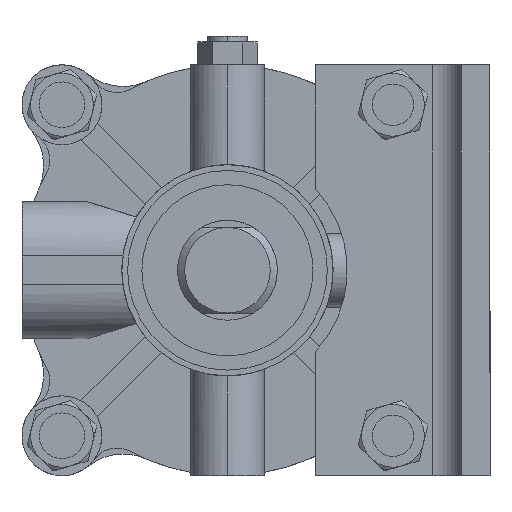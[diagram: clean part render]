
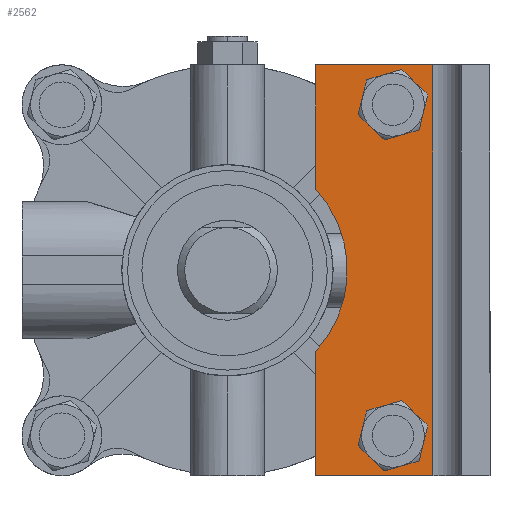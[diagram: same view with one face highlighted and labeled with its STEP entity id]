
A CAD part, left-side view. The second image highlights one B-rep face of the part: STEP entity #2562.
In plain terms, the highlighted planar face has unit normal (-1, 0, 0) as drawn and (0, 0, 1) by its records, which use the part's own axes.
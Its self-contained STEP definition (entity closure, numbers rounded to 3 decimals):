
#315 = EDGE_CURVE ( 'NONE', #4417, #3559, #1992, .T. ) ;
#316 = VECTOR ( 'NONE', #7740, 1000. ) ;
#380 = LINE ( 'NONE', #7096, #316 ) ;
#475 = VERTEX_POINT ( 'NONE', #3511 ) ;
#509 = DIRECTION ( 'NONE',  ( 1., 0., 0. ) ) ;
#563 = VERTEX_POINT ( 'NONE', #8702 ) ;
#690 = VECTOR ( 'NONE', #9825, 1000. ) ;
#783 = EDGE_CURVE ( 'NONE', #8852, #4600, #9579, .T. ) ;
#912 = FACE_BOUND ( 'NONE', #5026, .T. ) ;
#1014 = DIRECTION ( 'NONE',  ( 0., 0., 1. ) ) ;
#1181 = DIRECTION ( 'NONE',  ( 1., 0., 0. ) ) ;
#1301 = DIRECTION ( 'NONE',  ( 0., 0., 1. ) ) ;
#1481 = EDGE_CURVE ( 'NONE', #1653, #563, #9395, .T. ) ;
#1616 = ORIENTED_EDGE ( 'NONE', *, *, #4074, .T. ) ;
#1649 = EDGE_LOOP ( 'NONE', ( #1616, #10362, #4063, #7191, #9123, #4225 ) ) ;
#1653 = VERTEX_POINT ( 'NONE', #8612 ) ;
#1882 = DIRECTION ( 'NONE',  ( 0., 0., 1. ) ) ;
#1938 = EDGE_CURVE ( 'NONE', #8900, #5948, #9467, .T. ) ;
#1992 = CIRCLE ( 'NONE', #7813, 8. ) ;
#2077 = DIRECTION ( 'NONE',  ( 0., -1., 0. ) ) ;
#2086 = AXIS2_PLACEMENT_3D ( 'NONE', #8885, #4375, #1181 ) ;
#2131 = CARTESIAN_POINT ( 'NONE',  ( 0., -72., 0. ) ) ;
#2287 = DIRECTION ( 'NONE',  ( 0., 0., 1. ) ) ;
#2303 = CARTESIAN_POINT ( 'NONE',  ( 0., -31., 0. ) ) ;
#2328 = EDGE_CURVE ( 'NONE', #8852, #5948, #380, .T. ) ;
#2455 = AXIS2_PLACEMENT_3D ( 'NONE', #7989, #1301, #5835 ) ;
#2562 = ADVANCED_FACE ( 'NONE', ( #7290, #912, #6964 ), #9953, .T. ) ;
#2734 = ORIENTED_EDGE ( 'NONE', *, *, #1481, .F. ) ;
#2919 = VERTEX_POINT ( 'NONE', #9993 ) ;
#3306 = EDGE_CURVE ( 'NONE', #3559, #4417, #5016, .T. ) ;
#3442 = DIRECTION ( 'NONE',  ( 1., 0., 0. ) ) ;
#3511 = CARTESIAN_POINT ( 'NONE',  ( -72., -31., 0. ) ) ;
#3559 = VERTEX_POINT ( 'NONE', #7611 ) ;
#4063 = ORIENTED_EDGE ( 'NONE', *, *, #2328, .F. ) ;
#4074 = EDGE_CURVE ( 'NONE', #475, #8900, #5249, .T. ) ;
#4225 = ORIENTED_EDGE ( 'NONE', *, *, #4721, .T. ) ;
#4372 = EDGE_CURVE ( 'NONE', #2919, #4600, #10293, .T. ) ;
#4375 = DIRECTION ( 'NONE',  ( 0., 0., 1. ) ) ;
#4417 = VERTEX_POINT ( 'NONE', #7976 ) ;
#4600 = VERTEX_POINT ( 'NONE', #9501 ) ;
#4721 = EDGE_CURVE ( 'NONE', #2919, #475, #9666, .T. ) ;
#5016 = CIRCLE ( 'NONE', #2086, 8. ) ;
#5026 = EDGE_LOOP ( 'NONE', ( #7185, #10370 ) ) ;
#5249 = LINE ( 'NONE', #6601, #5460 ) ;
#5460 = VECTOR ( 'NONE', #2077, 1000. ) ;
#5505 = EDGE_LOOP ( 'NONE', ( #2734, #7106 ) ) ;
#5751 = CARTESIAN_POINT ( 'NONE',  ( -72., -72., 0. ) ) ;
#5775 = CARTESIAN_POINT ( 'NONE',  ( 72., -31., 0. ) ) ;
#5835 = DIRECTION ( 'NONE',  ( 1., 0., 0. ) ) ;
#5914 = DIRECTION ( 'NONE',  ( 1., 0., 0. ) ) ;
#5929 = DIRECTION ( 'NONE',  ( -1., 0., 0. ) ) ;
#5948 = VERTEX_POINT ( 'NONE', #8968 ) ;
#6098 = DIRECTION ( 'NONE',  ( 0., 0., 1. ) ) ;
#6301 = VECTOR ( 'NONE', #7667, 1000. ) ;
#6601 = CARTESIAN_POINT ( 'NONE',  ( -72., 0., 0. ) ) ;
#6612 = AXIS2_PLACEMENT_3D ( 'NONE', #9557, #1882, #5914 ) ;
#6795 = CARTESIAN_POINT ( 'NONE',  ( 0., 0., 0. ) ) ;
#6964 = FACE_BOUND ( 'NONE', #5505, .T. ) ;
#7096 = CARTESIAN_POINT ( 'NONE',  ( 72., 0., 0. ) ) ;
#7106 = ORIENTED_EDGE ( 'NONE', *, *, #8628, .F. ) ;
#7185 = ORIENTED_EDGE ( 'NONE', *, *, #315, .F. ) ;
#7191 = ORIENTED_EDGE ( 'NONE', *, *, #783, .T. ) ;
#7290 = FACE_OUTER_BOUND ( 'NONE', #1649, .T. ) ;
#7581 = CIRCLE ( 'NONE', #2455, 8. ) ;
#7611 = CARTESIAN_POINT ( 'NONE',  ( -66., -58., 0. ) ) ;
#7652 = AXIS2_PLACEMENT_3D ( 'NONE', #9989, #2287, #3442 ) ;
#7667 = DIRECTION ( 'NONE',  ( -1., 0., 0. ) ) ;
#7740 = DIRECTION ( 'NONE',  ( 0., -1., 0. ) ) ;
#7813 = AXIS2_PLACEMENT_3D ( 'NONE', #9696, #1014, #509 ) ;
#7976 = CARTESIAN_POINT ( 'NONE',  ( -50., -58., 0. ) ) ;
#7989 = CARTESIAN_POINT ( 'NONE',  ( 58., -58., 0. ) ) ;
#8305 = VECTOR ( 'NONE', #5929, 1000. ) ;
#8612 = CARTESIAN_POINT ( 'NONE',  ( 66., -58., 0. ) ) ;
#8628 = EDGE_CURVE ( 'NONE', #563, #1653, #7581, .T. ) ;
#8702 = CARTESIAN_POINT ( 'NONE',  ( 50., -58., 0. ) ) ;
#8746 = AXIS2_PLACEMENT_3D ( 'NONE', #6795, #6098, #9428 ) ;
#8852 = VERTEX_POINT ( 'NONE', #5775 ) ;
#8885 = CARTESIAN_POINT ( 'NONE',  ( -58., -58., 0. ) ) ;
#8900 = VERTEX_POINT ( 'NONE', #5751 ) ;
#8968 = CARTESIAN_POINT ( 'NONE',  ( 72., -72., 0. ) ) ;
#9123 = ORIENTED_EDGE ( 'NONE', *, *, #4372, .F. ) ;
#9395 = CIRCLE ( 'NONE', #6612, 8. ) ;
#9428 = DIRECTION ( 'NONE',  ( 1., 0., 0. ) ) ;
#9467 = LINE ( 'NONE', #2131, #690 ) ;
#9501 = CARTESIAN_POINT ( 'NONE',  ( 28.337, -31., 0. ) ) ;
#9557 = CARTESIAN_POINT ( 'NONE',  ( 58., -58., 0. ) ) ;
#9579 = LINE ( 'NONE', #9750, #8305 ) ;
#9666 = LINE ( 'NONE', #2303, #6301 ) ;
#9696 = CARTESIAN_POINT ( 'NONE',  ( -58., -58., 0. ) ) ;
#9750 = CARTESIAN_POINT ( 'NONE',  ( 0., -31., 0. ) ) ;
#9825 = DIRECTION ( 'NONE',  ( 1., 0., 0. ) ) ;
#9953 = PLANE ( 'NONE',  #8746 ) ;
#9989 = CARTESIAN_POINT ( 'NONE',  ( 0., 0., 0. ) ) ;
#9993 = CARTESIAN_POINT ( 'NONE',  ( -28.337, -31., 0. ) ) ;
#10293 = CIRCLE ( 'NONE', #7652, 42. ) ;
#10362 = ORIENTED_EDGE ( 'NONE', *, *, #1938, .T. ) ;
#10370 = ORIENTED_EDGE ( 'NONE', *, *, #3306, .F. ) ;
